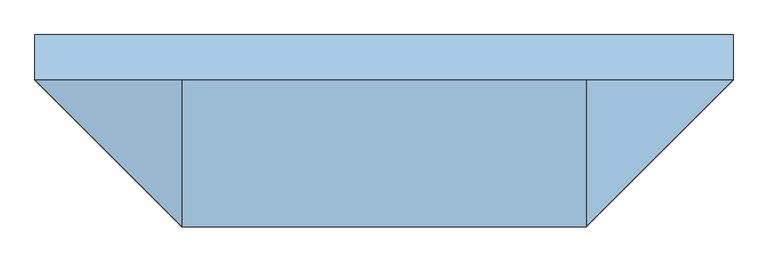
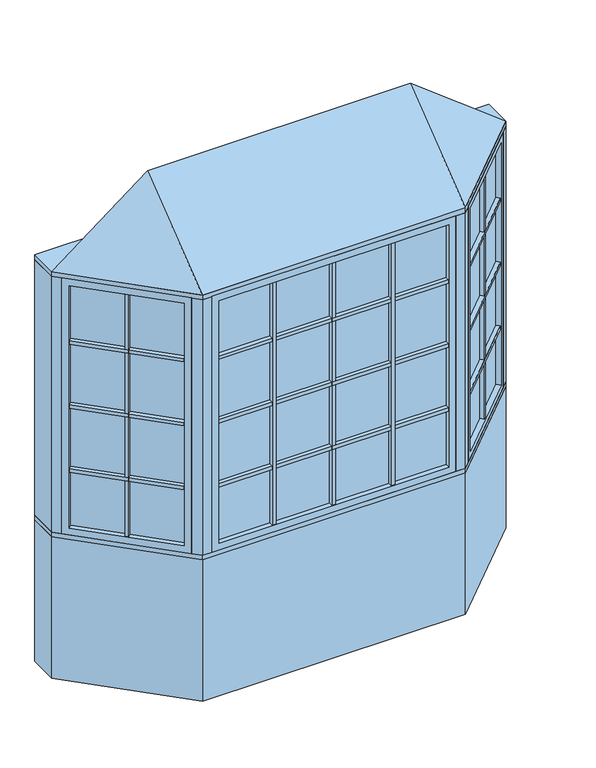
"""IFC4 building model written with IfcOpenShell, lengths in millimetres: window geometry, Pollard_Windows_Tudor Casement Bows and Bays : AML-BAY 45 AFR0614-12-600_GC."""

from ifc_helpers import new_model, si_unit, frame, origin, origin_with_axes, place, context, project, spatial, polyline, outline, extrude, faceted_brep, source, transform, mapped, element, save


def window_a5e491d9(model_context):
    return source(origin(), model_context, "Body", "SolidModel", [
        extrude(outline(polyline([(739.5114193, -506.9608753), (723.9550701, -491.4045261), (1101.616171, -113.7434252), (1117.1725202, -129.2997743), (739.5114193, -506.9608753)])), frame((0.0, 0.0, 1490.998), z_axis=(0.0, 0.0, 1.0), x_axis=(1.0, 0.0, 0.0)), (0.0, 0.0, 1.0), 18.0),
        extrude(outline(polyline([(720.3629677, -487.8124236), (704.8066185, -472.2560744), (1082.4677194, -94.5949735), (1098.0240686, -110.1513227), (720.3629677, -487.8124236)])), frame((0.0, 0.0, 1490.998), z_axis=(0.0, 0.0, 1.0), x_axis=(1.0, 0.0, 0.0)), (0.0, 0.0, 1.0), 18.0),
        extrude(outline(polyline([(739.5114193, -506.9608753), (723.9550701, -491.4045261), (1101.616171, -113.7434252), (1117.1725202, -129.2997743), (739.5114193, -506.9608753)])), frame((0.0, 0.0, 1140.998), z_axis=(0.0, 0.0, 1.0), x_axis=(1.0, 0.0, 0.0)), (0.0, 0.0, 1.0), 18.0),
        extrude(outline(polyline([(720.3629677, -487.8124236), (704.8066185, -472.2560744), (1082.4677194, -94.5949735), (1098.0240686, -110.1513227), (720.3629677, -487.8124236)])), frame((0.0, 0.0, 1140.998), z_axis=(0.0, 0.0, 1.0), x_axis=(1.0, 0.0, 0.0)), (0.0, 0.0, 1.0), 18.0),
        extrude(outline(polyline([(739.5114193, -506.9608753), (723.9550701, -491.4045261), (1101.616171, -113.7434252), (1117.1725202, -129.2997743), (739.5114193, -506.9608753)])), frame((0.0, 0.0, 1490.998), z_axis=(0.0, 0.0, 1.0), x_axis=(1.0, 0.0, 0.0)), (0.0, 0.0, 1.0), 18.0),
        extrude(outline(polyline([(720.3629677, -487.8124236), (704.8066185, -472.2560744), (1082.4677194, -94.5949735), (1098.0240686, -110.1513227), (720.3629677, -487.8124236)])), frame((0.0, 0.0, 1490.998), z_axis=(0.0, 0.0, 1.0), x_axis=(1.0, 0.0, 0.0)), (0.0, 0.0, 1.0), 18.0),
        extrude(outline(polyline([(739.5114193, -506.9608753), (723.9550701, -491.4045261), (1101.616171, -113.7434252), (1117.1725202, -129.2997743), (739.5114193, -506.9608753)])), frame((0.0, 0.0, 1490.998), z_axis=(0.0, 0.0, 1.0), x_axis=(1.0, 0.0, 0.0)), (0.0, 0.0, 1.0), 18.0),
        extrude(outline(polyline([(720.3629677, -487.8124236), (704.8066185, -472.2560744), (1082.4677194, -94.5949735), (1098.0240686, -110.1513227), (720.3629677, -487.8124236)])), frame((0.0, 0.0, 1490.998), z_axis=(0.0, 0.0, 1.0), x_axis=(1.0, 0.0, 0.0)), (0.0, 0.0, 1.0), 18.0),
        extrude(outline(polyline([(739.5114193, -506.9608753), (723.9550701, -491.4045261), (1101.616171, -113.7434252), (1117.1725202, -129.2997743), (739.5114193, -506.9608753)])), frame((0.0, 0.0, 1840.998), z_axis=(0.0, 0.0, 1.0), x_axis=(1.0, 0.0, 0.0)), (0.0, 0.0, 1.0), 18.0),
        extrude(outline(polyline([(720.3629677, -487.8124236), (704.8066185, -472.2560744), (1082.4677194, -94.5949735), (1098.0240686, -110.1513227), (720.3629677, -487.8124236)])), frame((0.0, 0.0, 1840.998), z_axis=(0.0, 0.0, 1.0), x_axis=(1.0, 0.0, 0.0)), (0.0, 0.0, 1.0), 18.0),
        extrude(outline(polyline([(919.1495816, -296.2100146), (934.7059308, -311.7663638), (921.9780087, -324.4942858), (906.4216595, -308.9379366), (919.1495816, -296.2100146)])), frame((0.0, 0.0, 835.8628), z_axis=(0.0, 0.0, 1.0), x_axis=(1.0, 0.0, 0.0)), (0.0, 0.0, 1.0), 1328.2704),
        extrude(outline(polyline([(915.5574791, -292.6179121), (902.8295571, -305.3458342), (887.2732079, -289.789485), (900.00113, -277.0615629), (915.5574791, -292.6179121)])), frame((0.0, 0.0, 835.8628), z_axis=(0.0, 0.0, 1.0), x_axis=(1.0, 0.0, 0.0)), (0.0, 0.0, 1.0), 1328.2704),
        extrude(outline(polyline([(1110.5964271, -104.763169), (714.974814, -500.3847822), (711.3827115, -496.7926797), (1107.0043247, -101.1710666), (1110.5964271, -104.763169)])), frame((0.0, 0.0, 823.1628), z_axis=(0.0, 0.0, 1.0), x_axis=(1.0, 0.0, 0.0)), (0.0, 0.0, 1.0), 1353.6704),
        faceted_brep([(1101.616171, -113.7434252, 835.8628), (1119.5766833, -131.7039374, 835.8628), (1119.5766833, -131.7039374, 2164.1332), (1101.616171, -113.7434252, 2164.1332), (1107.0043247, -101.1710666, 823.1628), (1110.5964271, -104.763169, 823.1628), (1110.5964271, -104.763169, 2176.8332), (1107.0043247, -101.1710666, 2176.8332), (1080.0635563, -92.1908105, 835.8628), (1098.0240686, -110.1513227, 835.8628), (1098.0240686, -110.1513227, 2164.1332), (1080.0635563, -92.1908105, 2164.1332), (1144.9369265, -106.3436941, 799.998), (1105.4237996, -66.8305672, 799.998), (1105.4237996, -66.8305672, 2199.998), (1144.9369265, -106.3436941, 2199.998), (741.9155823, -509.3650383, 2164.1332), (723.9550701, -491.4045261, 2164.1332), (714.974814, -500.3847822, 2176.8332), (711.3827115, -496.7926797, 2176.8332), (720.3629677, -487.8124236, 2164.1332), (702.4024554, -469.8519114, 2164.1332), (677.0422121, -495.2121547, 2199.998), (716.5553391, -534.7252816, 2199.998), (741.9155823, -509.3650383, 835.8628), (723.9550701, -491.4045261, 835.8628), (714.974814, -500.3847822, 823.1628), (711.3827115, -496.7926797, 823.1628), (720.3629677, -487.8124236, 835.8628), (702.4024554, -469.8519114, 835.8628), (677.0422121, -495.2121547, 799.998), (716.5553391, -534.7252816, 799.998)], [[[0, 1, 2, 3]], [[4, 5, 6, 7]], [[8, 9, 10, 11]], [[12, 13, 14, 15]], [[3, 2, 16, 17]], [[7, 6, 18, 19]], [[11, 10, 20, 21]], [[15, 14, 22, 23]], [[17, 16, 24, 25]], [[19, 18, 26, 27]], [[21, 20, 28, 29]], [[23, 22, 30, 31]], [[25, 24, 1, 0]], [[5, 26, 18, 6], [3, 17, 25, 0]], [[27, 26, 5, 4]], [[7, 19, 27, 4], [9, 28, 20, 10]], [[29, 28, 9, 8]], [[13, 30, 22, 14], [11, 21, 29, 8]], [[31, 30, 13, 12]], [[15, 23, 31, 12], [1, 24, 16, 2]]]),
        extrude(outline(polyline([(317.5177, -544.6806207), (317.5177, -566.6806207), (299.5177, -566.6806207), (299.5177, -544.6806207), (317.5177, -544.6806207)])), frame((0.0, 0.0, 835.8628), z_axis=(0.0, 0.0, 1.0), x_axis=(1.0, 0.0, 0.0)), (0.0, 0.0, 1.0), 1328.2704),
        extrude(outline(polyline([(317.5177, -539.6006207), (299.5177, -539.6006207), (299.5177, -517.6006207), (317.5177, -517.6006207), (317.5177, -539.6006207)])), frame((0.0, 0.0, 835.8628), z_axis=(0.0, 0.0, 1.0), x_axis=(1.0, 0.0, 0.0)), (0.0, 0.0, 1.0), 1328.2704),
        extrude(outline(polyline([(-299.5177, -544.6806207), (-299.5177, -566.6806207), (-317.5177, -566.6806207), (-317.5177, -544.6806207), (-299.5177, -544.6806207)])), frame((0.0, 0.0, 835.8628), z_axis=(0.0, 0.0, 1.0), x_axis=(1.0, 0.0, 0.0)), (0.0, 0.0, 1.0), 1328.2704),
        extrude(outline(polyline([(-299.5177, -539.6006207), (-317.5177, -539.6006207), (-317.5177, -517.6006207), (-299.5177, -517.6006207), (-299.5177, -539.6006207)])), frame((0.0, 0.0, 835.8628), z_axis=(0.0, 0.0, 1.0), x_axis=(1.0, 0.0, 0.0)), (0.0, 0.0, 1.0), 1328.2704),
        extrude(outline(polyline([(-595.3352, -566.6806207), (-595.3352, -544.6806207), (595.3352, -544.6806207), (595.3352, -566.6806207), (-595.3352, -566.6806207)])), frame((0.0, 0.0, 1140.998), z_axis=(0.0, 0.0, 1.0), x_axis=(1.0, 0.0, 0.0)), (0.0, 0.0, 1.0), 18.0),
        extrude(outline(polyline([(-595.3352, -539.6006207), (-595.3352, -517.6006207), (595.3352, -517.6006207), (595.3352, -539.6006207), (-595.3352, -539.6006207)])), frame((0.0, 0.0, 1140.998), z_axis=(0.0, 0.0, 1.0), x_axis=(1.0, 0.0, 0.0)), (0.0, 0.0, 1.0), 18.0),
        extrude(outline(polyline([(-595.3352, -566.6806207), (-595.3352, -544.6806207), (595.3352, -544.6806207), (595.3352, -566.6806207), (-595.3352, -566.6806207)])), frame((0.0, 0.0, 1490.998), z_axis=(0.0, 0.0, 1.0), x_axis=(1.0, 0.0, 0.0)), (0.0, 0.0, 1.0), 18.0),
        extrude(outline(polyline([(-595.3352, -539.6006207), (-595.3352, -517.6006207), (595.3352, -517.6006207), (595.3352, -539.6006207), (-595.3352, -539.6006207)])), frame((0.0, 0.0, 1490.998), z_axis=(0.0, 0.0, 1.0), x_axis=(1.0, 0.0, 0.0)), (0.0, 0.0, 1.0), 18.0),
        extrude(outline(polyline([(-595.3352, -566.6806207), (-595.3352, -544.6806207), (595.3352, -544.6806207), (595.3352, -566.6806207), (-595.3352, -566.6806207)])), frame((0.0, 0.0, 1490.998), z_axis=(0.0, 0.0, 1.0), x_axis=(1.0, 0.0, 0.0)), (0.0, 0.0, 1.0), 18.0),
        extrude(outline(polyline([(-595.3352, -539.6006207), (-595.3352, -517.6006207), (595.3352, -517.6006207), (595.3352, -539.6006207), (-595.3352, -539.6006207)])), frame((0.0, 0.0, 1490.998), z_axis=(0.0, 0.0, 1.0), x_axis=(1.0, 0.0, 0.0)), (0.0, 0.0, 1.0), 18.0),
        extrude(outline(polyline([(-595.3352, -566.6806207), (-595.3352, -544.6806207), (595.3352, -544.6806207), (595.3352, -566.6806207), (-595.3352, -566.6806207)])), frame((0.0, 0.0, 1490.998), z_axis=(0.0, 0.0, 1.0), x_axis=(1.0, 0.0, 0.0)), (0.0, 0.0, 1.0), 18.0),
        extrude(outline(polyline([(-595.3352, -539.6006207), (-595.3352, -517.6006207), (595.3352, -517.6006207), (595.3352, -539.6006207), (-595.3352, -539.6006207)])), frame((0.0, 0.0, 1490.998), z_axis=(0.0, 0.0, 1.0), x_axis=(1.0, 0.0, 0.0)), (0.0, 0.0, 1.0), 18.0),
        extrude(outline(polyline([(-1117.1725202, -129.2997743), (-1101.616171, -113.7434252), (-723.9550701, -491.4045261), (-739.5114193, -506.9608753), (-1117.1725202, -129.2997743)])), frame((0.0, 0.0, 1140.998), z_axis=(0.0, 0.0, 1.0), x_axis=(1.0, 0.0, 0.0)), (0.0, 0.0, 1.0), 18.0),
        extrude(outline(polyline([(-1098.0240686, -110.1513227), (-1082.4677194, -94.5949735), (-704.8066185, -472.2560744), (-720.3629677, -487.8124236), (-1098.0240686, -110.1513227)])), frame((0.0, 0.0, 1140.998), z_axis=(0.0, 0.0, 1.0), x_axis=(1.0, 0.0, 0.0)), (0.0, 0.0, 1.0), 18.0),
        extrude(outline(polyline([(-1117.1725202, -129.2997743), (-1101.616171, -113.7434252), (-723.9550701, -491.4045261), (-739.5114193, -506.9608753), (-1117.1725202, -129.2997743)])), frame((0.0, 0.0, 1490.998), z_axis=(0.0, 0.0, 1.0), x_axis=(1.0, 0.0, 0.0)), (0.0, 0.0, 1.0), 18.0),
        extrude(outline(polyline([(-1098.0240686, -110.1513227), (-1082.4677194, -94.5949735), (-704.8066185, -472.2560744), (-720.3629677, -487.8124236), (-1098.0240686, -110.1513227)])), frame((0.0, 0.0, 1490.998), z_axis=(0.0, 0.0, 1.0), x_axis=(1.0, 0.0, 0.0)), (0.0, 0.0, 1.0), 18.0),
        extrude(outline(polyline([(-1117.1725202, -129.2997743), (-1101.616171, -113.7434252), (-723.9550701, -491.4045261), (-739.5114193, -506.9608753), (-1117.1725202, -129.2997743)])), frame((0.0, 0.0, 1490.998), z_axis=(0.0, 0.0, 1.0), x_axis=(1.0, 0.0, 0.0)), (0.0, 0.0, 1.0), 18.0),
        extrude(outline(polyline([(-1098.0240686, -110.1513227), (-1082.4677194, -94.5949735), (-704.8066185, -472.2560744), (-720.3629677, -487.8124236), (-1098.0240686, -110.1513227)])), frame((0.0, 0.0, 1490.998), z_axis=(0.0, 0.0, 1.0), x_axis=(1.0, 0.0, 0.0)), (0.0, 0.0, 1.0), 18.0),
        extrude(outline(polyline([(-1117.1725202, -129.2997743), (-1101.616171, -113.7434252), (-723.9550701, -491.4045261), (-739.5114193, -506.9608753), (-1117.1725202, -129.2997743)])), frame((0.0, 0.0, 1490.998), z_axis=(0.0, 0.0, 1.0), x_axis=(1.0, 0.0, 0.0)), (0.0, 0.0, 1.0), 18.0),
        extrude(outline(polyline([(-1098.0240686, -110.1513227), (-1082.4677194, -94.5949735), (-704.8066185, -472.2560744), (-720.3629677, -487.8124236), (-1098.0240686, -110.1513227)])), frame((0.0, 0.0, 1490.998), z_axis=(0.0, 0.0, 1.0), x_axis=(1.0, 0.0, 0.0)), (0.0, 0.0, 1.0), 18.0),
        extrude(outline(polyline([(-1117.1725202, -129.2997743), (-1101.616171, -113.7434252), (-723.9550701, -491.4045261), (-739.5114193, -506.9608753), (-1117.1725202, -129.2997743)])), frame((0.0, 0.0, 1840.998), z_axis=(0.0, 0.0, 1.0), x_axis=(1.0, 0.0, 0.0)), (0.0, 0.0, 1.0), 18.0),
        extrude(outline(polyline([(-1098.0240686, -110.1513227), (-1082.4677194, -94.5949735), (-704.8066185, -472.2560744), (-720.3629677, -487.8124236), (-1098.0240686, -110.1513227)])), frame((0.0, 0.0, 1840.998), z_axis=(0.0, 0.0, 1.0), x_axis=(1.0, 0.0, 0.0)), (0.0, 0.0, 1.0), 18.0),
        extrude(outline(polyline([(-595.3352, -566.6806207), (-595.3352, -544.6806207), (595.3352, -544.6806207), (595.3352, -566.6806207), (-595.3352, -566.6806207)])), frame((0.0, 0.0, 1840.998), z_axis=(0.0, 0.0, 1.0), x_axis=(1.0, 0.0, 0.0)), (0.0, 0.0, 1.0), 18.0),
        extrude(outline(polyline([(-595.3352, -539.6006207), (-595.3352, -517.6006207), (595.3352, -517.6006207), (595.3352, -539.6006207), (-595.3352, -539.6006207)])), frame((0.0, 0.0, 1840.998), z_axis=(0.0, 0.0, 1.0), x_axis=(1.0, 0.0, 0.0)), (0.0, 0.0, 1.0), 18.0),
        extrude(outline(polyline([(-906.4216595, -308.9379366), (-921.9780087, -324.4942858), (-934.7059308, -311.7663638), (-919.1495816, -296.2100146), (-906.4216595, -308.9379366)])), frame((0.0, 0.0, 835.8628), z_axis=(0.0, 0.0, 1.0), x_axis=(1.0, 0.0, 0.0)), (0.0, 0.0, 1.0), 1328.2704),
        extrude(outline(polyline([(-902.8295571, -305.3458342), (-915.5574791, -292.6179121), (-900.00113, -277.0615629), (-887.2732079, -289.789485), (-902.8295571, -305.3458342)])), frame((0.0, 0.0, 835.8628), z_axis=(0.0, 0.0, 1.0), x_axis=(1.0, 0.0, 0.0)), (0.0, 0.0, 1.0), 1328.2704),
        extrude(outline(polyline([(9.0, -544.6806207), (9.0, -566.6806207), (-9.0, -566.6806207), (-9.0, -544.6806207), (9.0, -544.6806207)])), frame((0.0, 0.0, 835.8628), z_axis=(0.0, 0.0, 1.0), x_axis=(1.0, 0.0, 0.0)), (0.0, 0.0, 1.0), 1328.2704),
        extrude(outline(polyline([(9.0, -539.6006207), (-9.0, -539.6006207), (-9.0, -517.6006207), (9.0, -517.6006207), (9.0, -539.6006207)])), frame((0.0, 0.0, 835.8628), z_axis=(0.0, 0.0, 1.0), x_axis=(1.0, 0.0, 0.0)), (0.0, 0.0, 1.0), 1328.2704),
        extrude(outline(polyline([(-714.974814, -500.3847822), (-1110.5964271, -104.763169), (-1107.0043247, -101.1710666), (-711.3827115, -496.7926797), (-714.974814, -500.3847822)])), frame((0.0, 0.0, 823.1628), z_axis=(0.0, 0.0, 1.0), x_axis=(1.0, 0.0, 0.0)), (0.0, 0.0, 1.0), 1353.6704),
        faceted_brep([(-720.3629677, -487.8124236, 2164.1332), (-702.4024554, -469.8519114, 2164.1332), (-702.4024554, -469.8519114, 835.8628), (-720.3629677, -487.8124236, 835.8628), (-714.974814, -500.3847822, 2176.8332), (-711.3827115, -496.7926797, 2176.8332), (-711.3827115, -496.7926797, 823.1628), (-714.974814, -500.3847822, 823.1628), (-741.9155823, -509.3650383, 2164.1332), (-723.9550701, -491.4045261, 2164.1332), (-723.9550701, -491.4045261, 835.8628), (-741.9155823, -509.3650383, 835.8628), (-677.0422121, -495.2121547, 2199.998), (-716.5553391, -534.7252816, 2199.998), (-716.5553391, -534.7252816, 799.998), (-677.0422121, -495.2121547, 799.998), (-1080.0635563, -92.1908105, 835.8628), (-1098.0240686, -110.1513227, 835.8628), (-1107.0043247, -101.1710666, 823.1628), (-1110.5964271, -104.763169, 823.1628), (-1101.616171, -113.7434252, 835.8628), (-1119.5766833, -131.7039374, 835.8628), (-1144.9369265, -106.3436941, 799.998), (-1105.4237996, -66.8305672, 799.998), (-1080.0635563, -92.1908105, 2164.1332), (-1098.0240686, -110.1513227, 2164.1332), (-1107.0043247, -101.1710666, 2176.8332), (-1110.5964271, -104.763169, 2176.8332), (-1101.616171, -113.7434252, 2164.1332), (-1119.5766833, -131.7039374, 2164.1332), (-1144.9369265, -106.3436941, 2199.998), (-1105.4237996, -66.8305672, 2199.998)], [[[0, 1, 2, 3]], [[4, 5, 6, 7]], [[8, 9, 10, 11]], [[12, 13, 14, 15]], [[3, 2, 16, 17]], [[7, 6, 18, 19]], [[11, 10, 20, 21]], [[15, 14, 22, 23]], [[17, 16, 24, 25]], [[19, 18, 26, 27]], [[21, 20, 28, 29]], [[23, 22, 30, 31]], [[15, 23, 31, 12], [1, 24, 16, 2]], [[25, 24, 1, 0]], [[5, 26, 18, 6], [3, 17, 25, 0]], [[27, 26, 5, 4]], [[7, 19, 27, 4], [9, 28, 20, 10]], [[29, 28, 9, 8]], [[13, 30, 22, 14], [11, 21, 29, 8]], [[31, 30, 13, 12]]]),
        extrude(outline(polyline([(608.0352, -544.6806207), (-608.0352, -544.6806207), (-608.0352, -539.6006207), (608.0352, -539.6006207), (608.0352, -544.6806207)])), frame((0.0, 0.0, 823.1628), z_axis=(0.0, 0.0, 1.0), x_axis=(1.0, 0.0, 0.0)), (0.0, 0.0, 1.0), 1353.6704),
        faceted_brep([(595.3352, -544.6806207, 835.8628), (595.3352, -570.0806207, 835.8628), (595.3352, -570.0806207, 2164.1332), (595.3352, -544.6806207, 2164.1332), (608.0352, -539.6006207, 823.1628), (608.0352, -544.6806207, 823.1628), (608.0352, -544.6806207, 2176.8332), (608.0352, -539.6006207, 2176.8332), (595.3352, -514.2006207, 835.8628), (595.3352, -539.6006207, 835.8628), (595.3352, -539.6006207, 2164.1332), (595.3352, -514.2006207, 2164.1332), (631.2, -570.0806207, 799.998), (631.2, -514.2006207, 799.998), (631.2, -514.2006207, 2199.998), (631.2, -570.0806207, 2199.998), (-595.3352, -570.0806207, 2164.1332), (-595.3352, -544.6806207, 2164.1332), (-608.0352, -544.6806207, 2176.8332), (-608.0352, -539.6006207, 2176.8332), (-595.3352, -539.6006207, 2164.1332), (-595.3352, -514.2006207, 2164.1332), (-631.2, -514.2006207, 2199.998), (-631.2, -570.0806207, 2199.998), (-595.3352, -570.0806207, 835.8628), (-595.3352, -544.6806207, 835.8628), (-608.0352, -544.6806207, 823.1628), (-608.0352, -539.6006207, 823.1628), (-595.3352, -539.6006207, 835.8628), (-595.3352, -514.2006207, 835.8628), (-631.2, -514.2006207, 799.998), (-631.2, -570.0806207, 799.998)], [[[0, 1, 2, 3]], [[4, 5, 6, 7]], [[8, 9, 10, 11]], [[12, 13, 14, 15]], [[3, 2, 16, 17]], [[7, 6, 18, 19]], [[11, 10, 20, 21]], [[15, 14, 22, 23]], [[17, 16, 24, 25]], [[19, 18, 26, 27]], [[21, 20, 28, 29]], [[23, 22, 30, 31]], [[15, 23, 31, 12], [1, 24, 16, 2]], [[25, 24, 1, 0]], [[5, 26, 18, 6], [3, 17, 25, 0]], [[27, 26, 5, 4]], [[7, 19, 27, 4], [9, 28, 20, 10]], [[29, 28, 9, 8]], [[13, 30, 22, 14], [11, 21, 29, 8]], [[31, 30, 13, 12]]]),
        faceted_brep([(1176.5, -74.7806207, 2225.398), (681.2, -570.0806207, 2225.398), (-681.2, -570.0806207, 2225.398), (-1176.5, -74.7806207, 2225.398), (-681.2, -74.7806207, 2606.398), (681.2, -74.7806207, 2606.398)], [[[0, 1, 2, 3]], [[3, 2, 4]], [[2, 1, 5, 4]], [[1, 0, 5]], [[0, 3, 4, 5]]]),
        extrude(outline(polyline([(-1176.5, 77.6193793), (1176.5, 77.6193793), (1176.5, -74.7806207), (681.2, -570.0806207), (-681.2, -570.0806207), (-1176.5, -74.7806207), (-1176.5, 77.6193793)])), frame((0.0, 0.0, 2199.998), z_axis=(0.0, 0.0, 1.0), x_axis=(1.0, 0.0, 0.0)), (0.0, 0.0, 1.0), 25.4),
        extrude(outline(polyline([(-1176.5, -74.7806207), (-1176.5, 77.6193793), (-1113.3738531, 77.6193793), (-1113.3738531, -74.7806207), (-1144.9369265, -106.3436941), (-1176.5, -74.7806207)])), frame((0.0, 0.0, 799.998), z_axis=(0.0, 0.0, 1.0), x_axis=(1.0, 0.0, 0.0)), (0.0, 0.0, 1.0), 1400.0),
        extrude(outline(polyline([(1176.5, 77.6193793), (1176.5, -74.7806207), (1144.9369265, -106.3436941), (1113.3738531, -74.7806207), (1113.3738531, 77.6193793), (1176.5, 77.6193793)])), frame((0.0, 0.0, 799.998), z_axis=(0.0, 0.0, 1.0), x_axis=(1.0, 0.0, 0.0)), (0.0, 0.0, 1.0), 1400.0),
        extrude(outline(polyline([(681.2, -570.0806207), (631.2, -570.0806207), (631.2, -520.0806207), (660.4893219, -520.0806207), (681.2, -499.3699425), (716.5553391, -534.7252816), (681.2, -570.0806207)])), frame((0.0, 0.0, 799.998), z_axis=(0.0, 0.0, 1.0), x_axis=(1.0, 0.0, 0.0)), (0.0, 0.0, 1.0), 1400.0),
        extrude(outline(polyline([(-681.2, -570.0806207), (-716.5553391, -534.7252816), (-681.2, -499.3699425), (-660.4893219, -520.0806207), (-631.2, -520.0806207), (-631.2, -570.0806207), (-681.2, -570.0806207)])), frame((0.0, 0.0, 799.998), z_axis=(0.0, 0.0, 1.0), x_axis=(1.0, 0.0, 0.0)), (0.0, 0.0, 1.0), 1400.0),
        extrude(outline(polyline([(-681.2, -570.0806207), (-1176.5, -74.7806207), (-1176.5, 77.6193793), (-1113.3738531, 77.6193793), (-618.0738531, -417.6806207), (618.0738531, -417.6806207), (1113.3738531, 77.6193793), (1176.5, 77.6193793), (1176.5, -74.7806207), (681.2, -570.0806207), (-681.2, -570.0806207)])), frame((0.0, 0.0, 774.598), z_axis=(0.0, 0.0, 1.0), x_axis=(1.0, 0.0, 0.0)), (0.0, 0.0, 1.0), 25.4),
        extrude(outline(polyline([(-1176.5, -74.7806207), (-1176.5, 77.6193793), (-1113.3738531, 77.6193793), (-618.0738531, -417.6806207), (618.0738531, -417.6806207), (1113.3738531, 77.6193793), (1176.5, 77.6193793), (1176.5, -74.7806207), (681.2, -570.0806207), (-681.2, -570.0806207), (-1176.5, -74.7806207)])), origin_with_axes(), (0.0, 0.0, 1.0), 774.598),
    ])


if __name__ == "__main__":
    model = new_model("IFC4")
    model_context = context("Model", 3, world=origin())
    ifc_project = project(units=[si_unit("LENGTHUNIT", "METRE", prefix="MILLI")], contexts=[model_context])
    site = spatial("IfcSite", under=ifc_project)
    building = spatial("IfcBuilding", under=site)
    placement = place(None, origin())
    window_shape = window_a5e491d9(model_context)
    element("IfcWindow", 1, ObjectType="Pollard_Windows_Tudor Casement Bows and Bays : AML-BAY 45 AFR0614-12-600_GC", at=placement, inside=building, context=model_context, shape_type="MappedRepresentation", body=[
        mapped(window_shape, transform((0.0, 0.0, 0.0), x_axis=(1.0, 0.0, 0.0), y_axis=(0.0, 1.0, 0.0), z_axis=(0.0, 0.0, 1.0))),
    ])
    save(model, "model.ifc")
